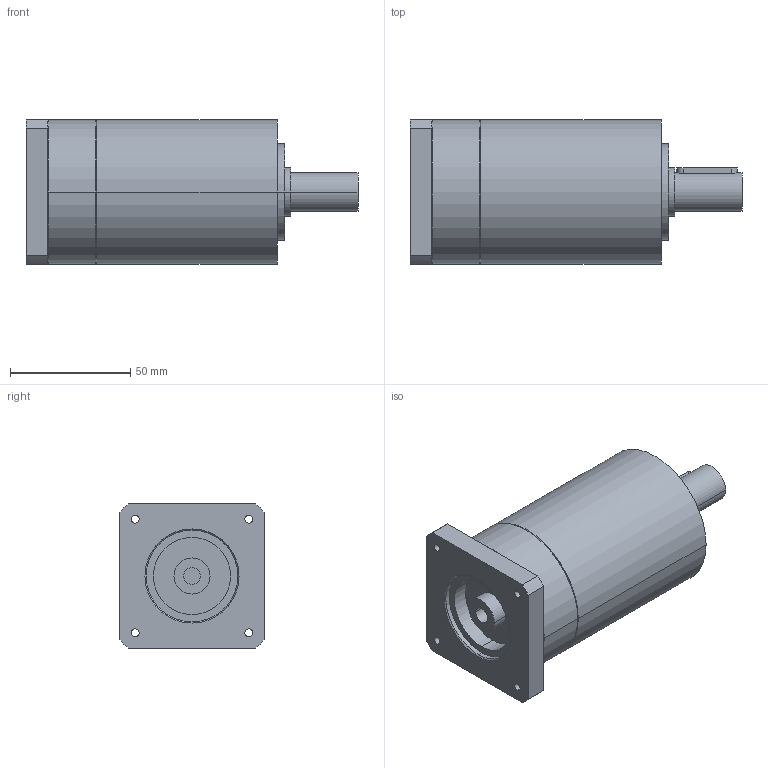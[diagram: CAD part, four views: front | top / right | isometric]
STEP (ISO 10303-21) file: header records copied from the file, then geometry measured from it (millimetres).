
FILE_DESCRIPTION(('CoCreate Modeling STEP Export'),'2;1');
FILE_NAME('GPR75_ig-9-12-16-20-24-30-36_16_B14_7_P28.stp','2014-08-25T16:05:37',(''),(''),'CoCreate Modeling STEP processor for AP214 (Solid Model)','CoCreate Modeling 16.00C 25-Feb-2009 (C) Parametric Technology GmbH','');
FILE_SCHEMA(('AUTOMOTIVE_DESIGN { 1 0 10303 214 1 1 1 1 }'));
Length unit declared in the file: millimetre
Products named in the file (2): GPR75_ig-9-12-16-20-24-30-36_16_B14_7_P28
Assembly tree (1 placements, depth 2):
  GPR75_ig-9-12-16-20-24-30-36_16_B14_7_P28
    GPR75_ig-9-12-16-20-24-30-36_16_B14_7_P28
Bounding box: 137.9 x 60 x 60 mm (x, y, z)
Volume: 303369.4 mm3; surface area: 32208.2 mm2
Topology: 1 solids, 1 shells, 72 faces, 190 edges, 132 vertices
Faces by surface type: cylinder 42, plane 22, cone 8
Entity records: 1969 total; most frequent: ORIENTED_EDGE 376, CARTESIAN_POINT 364, DIRECTION 268, EDGE_CURVE 188, VERTEX_POINT 132, AXIS2_PLACEMENT_3D 100, EDGE_LOOP 94, FACE_OUTER_BOUND 72
